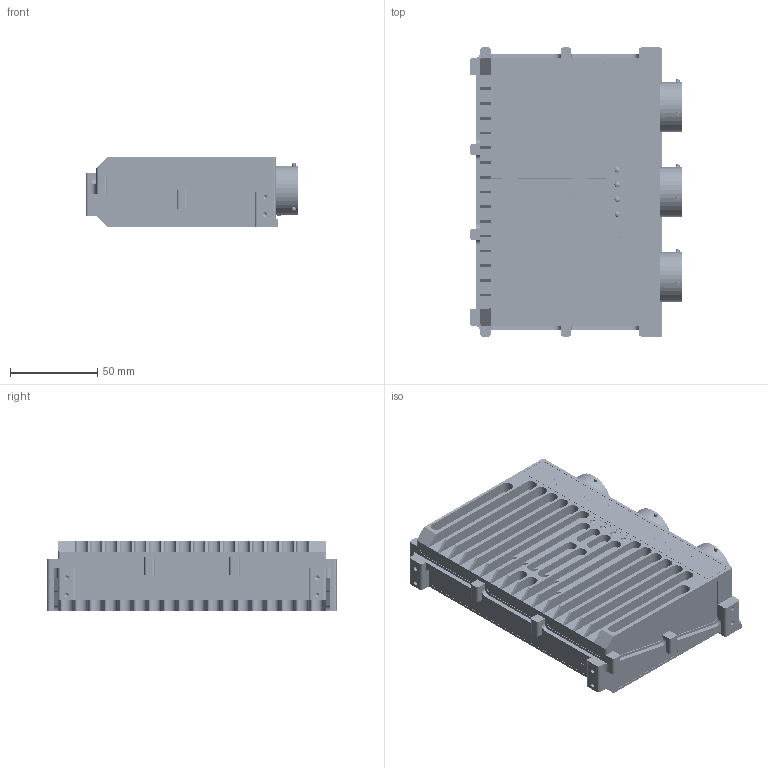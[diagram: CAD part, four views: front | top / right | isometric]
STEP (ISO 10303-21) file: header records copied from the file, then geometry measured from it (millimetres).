
FILE_DESCRIPTION(/* description */ (''),/* implementation_level */ '2;1');
FILE_NAME(/* name */ 'F02UA02965-01_MOD.stp',/* time_stamp */ '2020-10-27T13:32:35+01:00',/* author */ (''),/* organization */ (''),/* preprocessor_version */ 'ST-DEVELOPER v16.7',/* originating_system */ 'SIEMENS PLM Software NX 1892',/* authorisation */ '');
FILE_SCHEMA (('AUTOMOTIVE_DESIGN { 1 0 10303 214 3 1 1 1 }'));
Products named in the file (15): f02ue03508_01.001-CONNECTOR; f02ue03507_01.001-CONNECTOR; f02ue03506_01.001-CONNECTOR; f02u001070_01.001-PRESSURE COMPENSATION ELEMENT; F02U004158-01.001-TYPE LABEL MSD; f02u003061_01.001-OPTICAL FIBER; F02U004932-01.001-STICKER; f02u001068_01.001-SEALING; F02U000948_01.002-COUNTERSUNK-HEAD SCREW; f02u000946_01.001-COUNTERSUNK-HEAD SCREW; f02u004683_02.001-HOUSING BASE; f02u004684_02.001-UPPER HOUSING; F02UX00133-01.001-CIRCUIT BOARD_SOLID_AGZ; F02UV02965-01.001-ECU_SOLID_AGZ; F02UA02965-01.001-ECU
Assembly tree (33 placements, depth 4):
  F02UA02965-01.001-ECU
    F02UV02965-01.001-ECU_SOLID_AGZ
      f02u004684_02.001-UPPER HOUSING
      f02u004683_02.001-HOUSING BASE
      F02UX00133-01.001-CIRCUIT BOARD_SOLID_AGZ
        f02ue03506_01.001-CONNECTOR
        f02ue03507_01.001-CONNECTOR
        f02ue03508_01.001-CONNECTOR
      f02u000946_01.001-COUNTERSUNK-HEAD SCREW  x10
      F02U000948_01.002-COUNTERSUNK-HEAD SCREW  x6
      f02u001068_01.001-SEALING  x3
      F02U004932-01.001-STICKER
      f02u003061_01.001-OPTICAL FIBER  x4
      F02U004158-01.001-TYPE LABEL MSD
      f02u001070_01.001-PRESSURE COMPENSATION ELEMENT
Bounding box: 121.61 x 165.6 x 39.98 mm (x, y, z)
Volume: 129287.7 mm3; surface area: 175961.1 mm2
Topology: 102 solids, 102 shells, 4375 faces, 10752 edges, 7127 vertices
Faces by surface type: plane 1961, cylinder 1343, extrusion 477, cone 321, bspline 136, sphere 69, torus 68
Full cylindrical faces by diameter (mm): 0.7 x198, 0.788 x6, 0.98 x330, 1 x2, 1.25 x66, 2 x12, 2.05 x10, 2.21 x10, 2.5 x26, 2.8 x4, 2.9 x12, 3 x6, 3.2 x18, 3.3 x4, 4.7 x10, 6 x4, 6.5 x14, 8 x1, 8.091 x1, 9.091 x1, 14 x1, 26.94 x3, 28 x4, 28.5 x2, 28.57 x6, 28.77 x1, 29.57 x3, 31.9 x3
Entity records: 137225 total; most frequent: CARTESIAN_POINT 32257, DIRECTION 16075, ORIENTED_EDGE 15926, EDGE_CURVE 7963, VERTEX_POINT 6016, AXIS2_PLACEMENT_3D 5905, EDGE_LOOP 5837, VECTOR 4265
